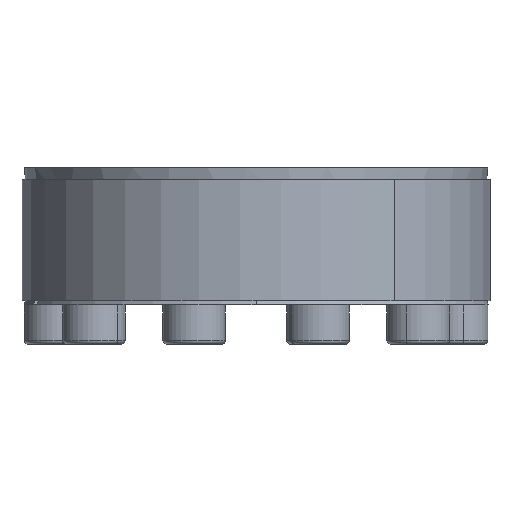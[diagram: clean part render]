
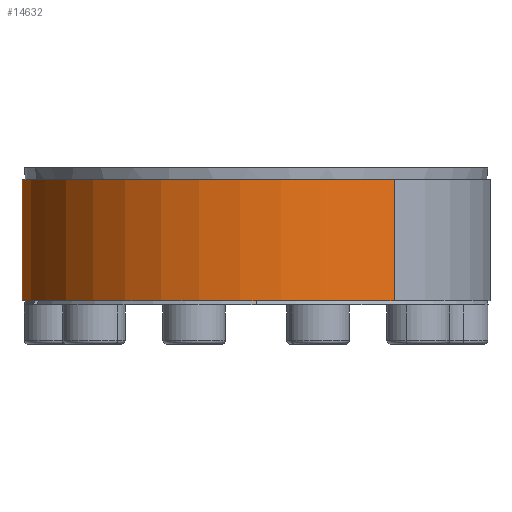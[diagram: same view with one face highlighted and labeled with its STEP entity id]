
A CAD part, left-side view. The second image highlights one B-rep face of the part: STEP entity #14632.
In plain terms, the highlighted cylindrical face has radius 59.98 mm (diameter 119.96 mm), a partial arc.
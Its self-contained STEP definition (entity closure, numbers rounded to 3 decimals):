
#1235 = CARTESIAN_POINT ( 'NONE',  ( 0., 0., 32.054 ) ) ;
#1414 = ORIENTED_EDGE ( 'NONE', *, *, #11777, .T. ) ;
#1793 = CYLINDRICAL_SURFACE ( 'NONE', #10132, 59.98 ) ;
#2085 = CARTESIAN_POINT ( 'NONE',  ( 48.525, 35.255, 32.054 ) ) ;
#2101 = ORIENTED_EDGE ( 'NONE', *, *, #3037, .F. ) ;
#2428 = DIRECTION ( 'NONE',  ( -0.809, -0.588, 0. ) ) ;
#3017 = VECTOR ( 'NONE', #10560, 1000. ) ;
#3037 = EDGE_CURVE ( 'NONE', #10630, #9529, #12157, .T. ) ;
#3907 = CIRCLE ( 'NONE', #7463, 59.98 ) ;
#4608 = DIRECTION ( 'NONE',  ( 0.809, 0.588, 0. ) ) ;
#5150 = DIRECTION ( 'NONE',  ( 0., 0., 1. ) ) ;
#5569 = LINE ( 'NONE', #10547, #11541 ) ;
#5729 = ORIENTED_EDGE ( 'NONE', *, *, #10707, .F. ) ;
#6043 = FACE_OUTER_BOUND ( 'NONE', #8873, .T. ) ;
#6191 = LINE ( 'NONE', #9379, #3017 ) ;
#7463 = AXIS2_PLACEMENT_3D ( 'NONE', #12277, #5150, #13474 ) ;
#8873 = EDGE_LOOP ( 'NONE', ( #5729, #2101, #1414, #10795 ) ) ;
#8893 = CARTESIAN_POINT ( 'NONE',  ( -48.525, -35.255, 1.054 ) ) ;
#9323 = DIRECTION ( 'NONE',  ( 0., 0., -1. ) ) ;
#9379 = CARTESIAN_POINT ( 'NONE',  ( 48.525, 35.255, 32.054 ) ) ;
#9529 = VERTEX_POINT ( 'NONE', #13449 ) ;
#9562 = DIRECTION ( 'NONE',  ( 0., 0., 1. ) ) ;
#10132 = AXIS2_PLACEMENT_3D ( 'NONE', #11757, #15272, #4608 ) ;
#10547 = CARTESIAN_POINT ( 'NONE',  ( -48.525, -35.255, 32.054 ) ) ;
#10560 = DIRECTION ( 'NONE',  ( 0., 0., -1. ) ) ;
#10630 = VERTEX_POINT ( 'NONE', #2085 ) ;
#10707 = EDGE_CURVE ( 'NONE', #9529, #11003, #5569, .T. ) ;
#10795 = ORIENTED_EDGE ( 'NONE', *, *, #12776, .T. ) ;
#11003 = VERTEX_POINT ( 'NONE', #8893 ) ;
#11223 = AXIS2_PLACEMENT_3D ( 'NONE', #1235, #9562, #2428 ) ;
#11541 = VECTOR ( 'NONE', #9323, 1000. ) ;
#11757 = CARTESIAN_POINT ( 'NONE',  ( 0., 0., 32.054 ) ) ;
#11777 = EDGE_CURVE ( 'NONE', #10630, #15269, #6191, .T. ) ;
#12157 = CIRCLE ( 'NONE', #11223, 59.98 ) ;
#12277 = CARTESIAN_POINT ( 'NONE',  ( 0., 0., 1.054 ) ) ;
#12776 = EDGE_CURVE ( 'NONE', #15269, #11003, #3907, .T. ) ;
#13295 = CARTESIAN_POINT ( 'NONE',  ( 48.525, 35.255, 1.054 ) ) ;
#13449 = CARTESIAN_POINT ( 'NONE',  ( -48.525, -35.255, 32.054 ) ) ;
#13474 = DIRECTION ( 'NONE',  ( -0.809, -0.588, 0. ) ) ;
#14632 = ADVANCED_FACE ( 'NONE', ( #6043 ), #1793, .T. ) ;
#15269 = VERTEX_POINT ( 'NONE', #13295 ) ;
#15272 = DIRECTION ( 'NONE',  ( 0., 0., -1. ) ) ;
